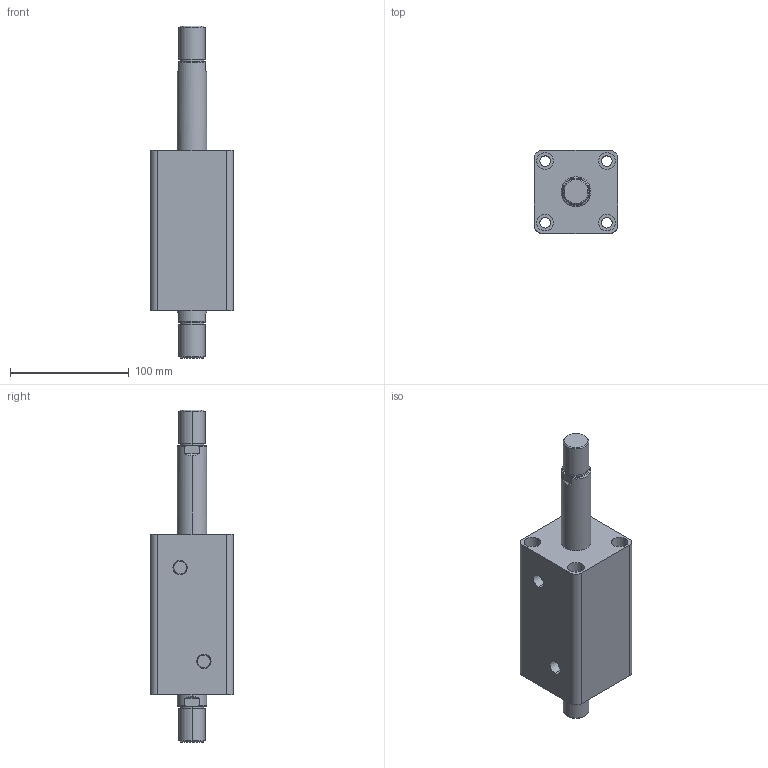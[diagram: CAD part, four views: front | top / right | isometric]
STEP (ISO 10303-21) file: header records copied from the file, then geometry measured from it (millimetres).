
FILE_DESCRIPTION (( 'STEP AP203' ), '1' );
FILE_NAME ('HTB-SW40-65W.STEP', '2019-10-07T09:10:54', ( '微软用户' ), ( '微软中国' ), 'SwSTEP 2.0', 'SolidWorks 2012', '' );
FILE_SCHEMA (( 'CONFIG_CONTROL_DESIGN' ));
Length unit declared in the file: millimetre
Products named in the file (3): HTB-SW40-65W; HTB-SW40-65W活塞杆; HTB-SW40-65掛极
Assembly tree (2 placements, depth 2):
  HTB-SW40-65W
    HTB-SW40-65掛极
    HTB-SW40-65W活塞杆
Bounding box: 70 x 70 x 280 mm (x, y, z)
Volume: 628470.7 mm3; surface area: 102421.4 mm2
Topology: 2 solids, 2 shells, 108 faces, 240 edges, 156 vertices
Faces by surface type: cylinder 52, plane 36, torus 12, cone 8
Entity records: 3449 total; most frequent: CARTESIAN_POINT 629, DIRECTION 586, ORIENTED_EDGE 480, AXIS2_PLACEMENT_3D 249, EDGE_CURVE 240, VERTEX_POINT 156, EDGE_LOOP 138, CIRCLE 136
